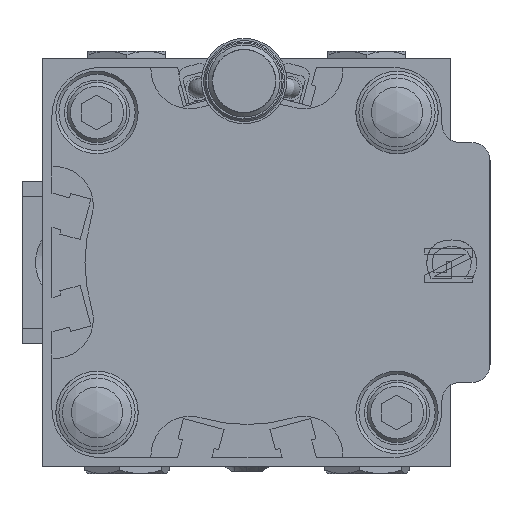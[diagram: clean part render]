
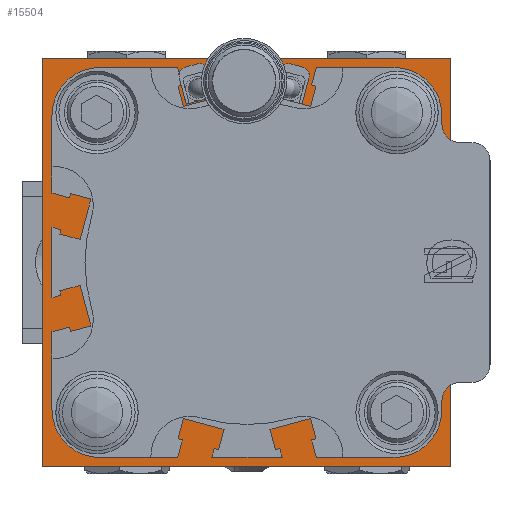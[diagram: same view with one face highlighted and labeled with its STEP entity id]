
A CAD part, left-side view. The second image highlights one B-rep face of the part: STEP entity #15504.
In plain terms, the highlighted planar face has unit normal (-1, 0, 0).
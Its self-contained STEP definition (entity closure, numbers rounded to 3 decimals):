
#1366=LINE('',#25628,#2415);
#1372=LINE('',#25651,#2421);
#1374=LINE('',#25655,#2423);
#1375=LINE('',#25657,#2424);
#2415=VECTOR('',#20443,10.);
#2421=VECTOR('',#20471,10.);
#2423=VECTOR('',#20475,10.);
#2424=VECTOR('',#20478,10.);
#3144=PLANE('',#17296);
#4024=FACE_BOUND('',#5979,.T.);
#4025=FACE_BOUND('',#5980,.T.);
#4026=FACE_BOUND('',#5981,.T.);
#4027=FACE_BOUND('',#5982,.T.);
#4028=FACE_BOUND('',#5983,.T.);
#4729=FACE_OUTER_BOUND('',#5978,.T.);
#5978=EDGE_LOOP('',(#12914,#12915,#12916,#12917));
#5979=EDGE_LOOP('',(#12918));
#5980=EDGE_LOOP('',(#12919));
#5981=EDGE_LOOP('',(#12920));
#5982=EDGE_LOOP('',(#12921));
#5983=EDGE_LOOP('',(#12922));
#7139=CIRCLE('',#17235,2.459);
#7140=CIRCLE('',#17237,2.459);
#7141=CIRCLE('',#17239,2.459);
#7143=CIRCLE('',#17242,2.459);
#7163=CIRCLE('',#17281,11.113);
#8285=VERTEX_POINT('',#25543);
#8286=VERTEX_POINT('',#25546);
#8287=VERTEX_POINT('',#25549);
#8289=VERTEX_POINT('',#25554);
#8309=VERTEX_POINT('',#25613);
#8313=VERTEX_POINT('',#25625);
#8314=VERTEX_POINT('',#25627);
#8320=VERTEX_POINT('',#25649);
#8321=VERTEX_POINT('',#25653);
#9995=EDGE_CURVE('',#8285,#8285,#7139,.T.);
#9996=EDGE_CURVE('',#8286,#8286,#7140,.T.);
#9997=EDGE_CURVE('',#8287,#8287,#7141,.T.);
#9999=EDGE_CURVE('',#8289,#8289,#7143,.T.);
#10019=EDGE_CURVE('',#8309,#8309,#7163,.T.);
#10026=EDGE_CURVE('',#8314,#8313,#1366,.T.);
#10036=EDGE_CURVE('',#8313,#8320,#1372,.T.);
#10038=EDGE_CURVE('',#8321,#8320,#1374,.T.);
#10039=EDGE_CURVE('',#8321,#8314,#1375,.T.);
#12914=ORIENTED_EDGE('',*,*,#10036,.T.);
#12915=ORIENTED_EDGE('',*,*,#10038,.F.);
#12916=ORIENTED_EDGE('',*,*,#10039,.T.);
#12917=ORIENTED_EDGE('',*,*,#10026,.T.);
#12918=ORIENTED_EDGE('',*,*,#9995,.T.);
#12919=ORIENTED_EDGE('',*,*,#9996,.T.);
#12920=ORIENTED_EDGE('',*,*,#9997,.T.);
#12921=ORIENTED_EDGE('',*,*,#9999,.T.);
#12922=ORIENTED_EDGE('',*,*,#10019,.T.);
#15504=ADVANCED_FACE('',(#4729,#4024,#4025,#4026,#4027,#4028),#3144,.T.);
#17235=AXIS2_PLACEMENT_3D('',#25544,#20339,#20340);
#17237=AXIS2_PLACEMENT_3D('',#25547,#20343,#20344);
#17239=AXIS2_PLACEMENT_3D('',#25550,#20347,#20348);
#17242=AXIS2_PLACEMENT_3D('',#25555,#20353,#20354);
#17281=AXIS2_PLACEMENT_3D('',#25614,#20431,#20432);
#17296=AXIS2_PLACEMENT_3D('',#25656,#20476,#20477);
#20339=DIRECTION('center_axis',(1.,0.,0.));
#20340=DIRECTION('ref_axis',(0.,0.,1.));
#20343=DIRECTION('center_axis',(1.,0.,0.));
#20344=DIRECTION('ref_axis',(0.,0.,1.));
#20347=DIRECTION('center_axis',(1.,0.,0.));
#20348=DIRECTION('ref_axis',(0.,0.,1.));
#20353=DIRECTION('center_axis',(1.,0.,0.));
#20354=DIRECTION('ref_axis',(0.,0.,1.));
#20431=DIRECTION('center_axis',(1.,0.,0.));
#20432=DIRECTION('ref_axis',(0.,0.,1.));
#20443=DIRECTION('',(0.,0.,1.));
#20471=DIRECTION('',(0.,1.,0.));
#20475=DIRECTION('',(0.,0.,1.));
#20476=DIRECTION('center_axis',(-1.,0.,0.));
#20477=DIRECTION('ref_axis',(0.,0.,1.));
#20478=DIRECTION('',(0.,-1.,0.));
#25543=CARTESIAN_POINT('',(-19.219,14.859,11.459));
#25544=CARTESIAN_POINT('Origin',(-19.219,14.859,9.));
#25546=CARTESIAN_POINT('',(-19.219,-35.141,61.459));
#25547=CARTESIAN_POINT('Origin',(-19.219,-35.141,59.));
#25549=CARTESIAN_POINT('',(-19.219,14.859,61.459));
#25550=CARTESIAN_POINT('Origin',(-19.219,14.859,59.));
#25554=CARTESIAN_POINT('',(-19.219,-35.141,11.459));
#25555=CARTESIAN_POINT('Origin',(-19.219,-35.141,9.));
#25613=CARTESIAN_POINT('',(-19.219,-10.141,45.113));
#25614=CARTESIAN_POINT('Origin',(-19.219,-10.141,34.));
#25625=CARTESIAN_POINT('',(-19.219,-44.141,68.));
#25627=CARTESIAN_POINT('',(-19.219,-44.141,0.));
#25628=CARTESIAN_POINT('',(-19.219,-44.141,0.));
#25649=CARTESIAN_POINT('',(-19.219,23.859,68.));
#25651=CARTESIAN_POINT('',(-19.219,23.859,68.));
#25653=CARTESIAN_POINT('',(-19.219,23.859,0.));
#25655=CARTESIAN_POINT('',(-19.219,23.859,0.));
#25656=CARTESIAN_POINT('Origin',(-19.219,-44.141,0.));
#25657=CARTESIAN_POINT('',(-19.219,23.859,0.));
